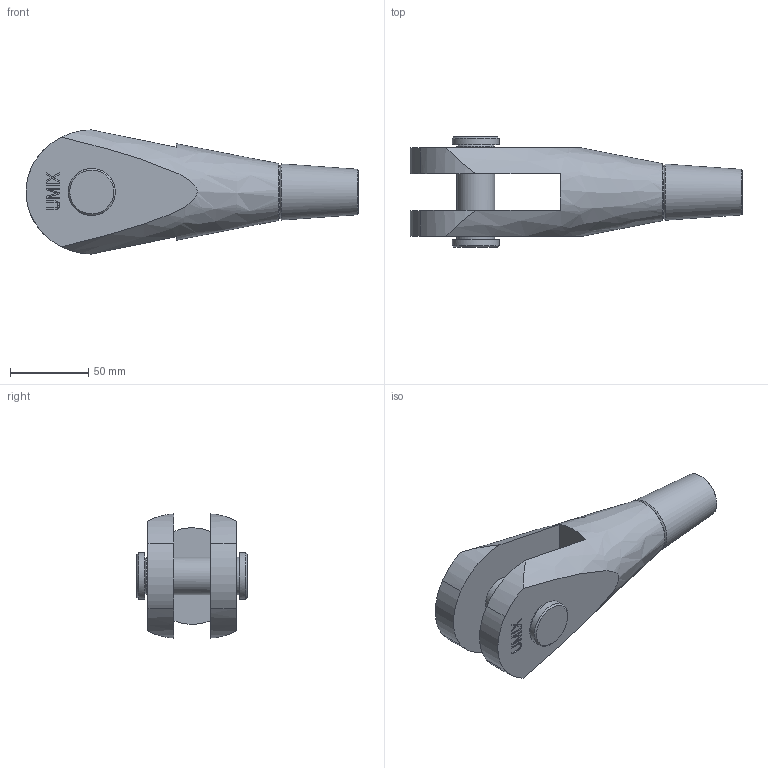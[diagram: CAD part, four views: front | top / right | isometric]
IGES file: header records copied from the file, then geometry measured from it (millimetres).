
Global section: file name: 520-024-GAK; native system: Autodesk Inventor 2016; preprocessor: unknown; author: Administrator; date: 20200625.074652; units: centimetre
Bounding box: 212 x 70.72 x 79.24 mm (x, y, z)
Volume: 353414.6 mm3; surface area: 60280.5 mm2
Topology: 2 solids, 3 shells, 186 faces, 488 edges, 326 vertices
Faces by surface type: bspline 186
